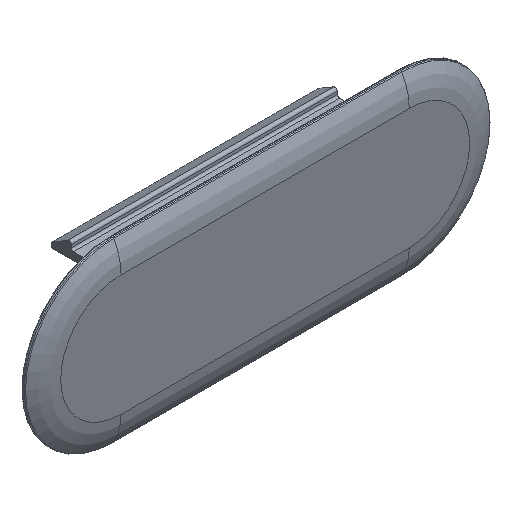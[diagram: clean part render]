
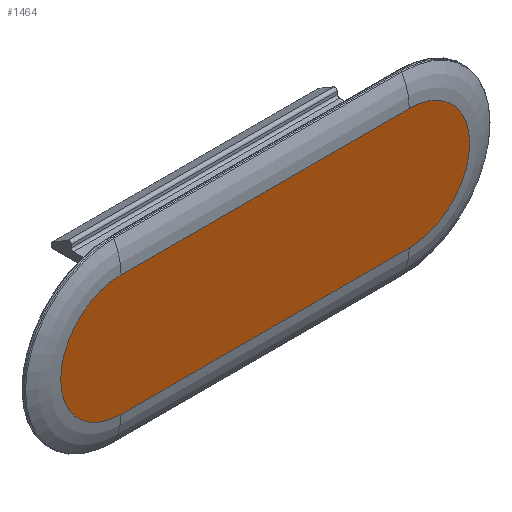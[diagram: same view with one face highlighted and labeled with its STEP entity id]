
A CAD part, isometric view. The second image highlights one B-rep face of the part: STEP entity #1464.
In plain terms, the highlighted planar face has unit normal (0, -1, 0).
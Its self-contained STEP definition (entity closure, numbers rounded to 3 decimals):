
#1286=CARTESIAN_POINT('',(26.0,-0.95,-5.449));
#1287=VERTEX_POINT('',#1286);
#1296=CARTESIAN_POINT('',(26.0,-0.95,5.449));
#1297=VERTEX_POINT('',#1296);
#1305=CARTESIAN_POINT('',(26.0,-0.95,0.));
#1306=DIRECTION('',(0.0,-1.0,0.0));
#1307=DIRECTION('',(0.0,0.0,1.0));
#1308=AXIS2_PLACEMENT_3D('',#1305,#1306,#1307);
#1309=CIRCLE('',#1308,5.449);
#1310=EDGE_CURVE('',#1287,#1297,#1309,.T.);
#1414=CARTESIAN_POINT('',(0.,-0.95,-5.449));
#1415=VERTEX_POINT('',#1414);
#1423=CARTESIAN_POINT('',(0.,-0.95,5.449));
#1424=VERTEX_POINT('',#1423);
#1425=CARTESIAN_POINT('',(0.,-0.95,0.));
#1426=DIRECTION('',(0.0,-1.0,0.0));
#1427=DIRECTION('',(0.0,0.0,1.0));
#1428=AXIS2_PLACEMENT_3D('',#1425,#1426,#1427);
#1429=CIRCLE('',#1428,5.449);
#1430=EDGE_CURVE('',#1424,#1415,#1429,.T.);
#1443=CARTESIAN_POINT('',(0.,-0.95,-5.449));
#1444=DIRECTION('',(0.0,-1.0,0.0));
#1445=DIRECTION('',(1.0,0.0,0.0));
#1446=AXIS2_PLACEMENT_3D('',#1443,#1444,#1445);
#1447=PLANE('',#1446);
#1448=CARTESIAN_POINT('',(0.,-0.95,5.449));
#1449=DIRECTION('',(1.0,0.0,0.0));
#1450=VECTOR('',#1449,26.0);
#1451=LINE('',#1448,#1450);
#1452=EDGE_CURVE('',#1424,#1297,#1451,.T.);
#1453=ORIENTED_EDGE('',*,*,#1452,.F.);
#1454=ORIENTED_EDGE('',*,*,#1430,.T.);
#1455=CARTESIAN_POINT('',(0.,-0.95,-5.449));
#1456=DIRECTION('',(1.0,0.0,0.0));
#1457=VECTOR('',#1456,26.0);
#1458=LINE('',#1455,#1457);
#1459=EDGE_CURVE('',#1415,#1287,#1458,.T.);
#1460=ORIENTED_EDGE('',*,*,#1459,.T.);
#1461=ORIENTED_EDGE('',*,*,#1310,.T.);
#1462=EDGE_LOOP('',(#1453,#1454,#1460,#1461));
#1463=FACE_OUTER_BOUND('',#1462,.T.);
#1464=ADVANCED_FACE('',(#1463),#1447,.T.);
